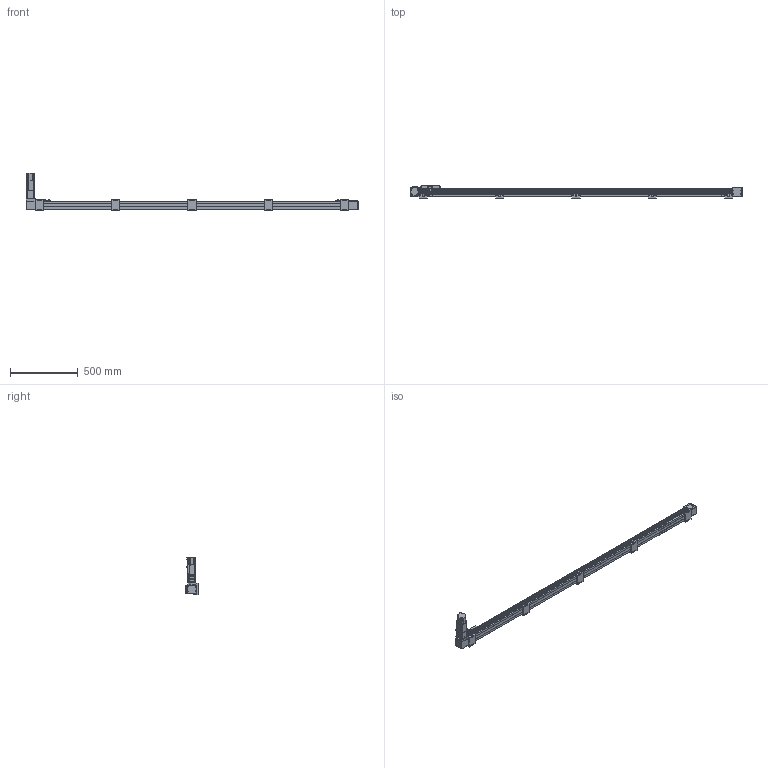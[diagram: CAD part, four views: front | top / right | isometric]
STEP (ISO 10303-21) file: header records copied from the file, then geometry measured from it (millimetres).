
FILE_DESCRIPTION(/* description */ ('STEP AP203'),/* implementation_level */ '2;1');
FILE_NAME(/* name */ 'SK60-P13-S2150-BL-T40-C1-N(0)',/* time_stamp */ '2023-04-06T03:37:45+02:00',/* author */ ('License CC BY-ND 4.0'),/* organization */ ('CADENAS'),/* preprocessor_version */ 'ST-DEVELOPER v19.3',/* originating_system */ 'PARTsolutions',/* authorisation */ ' ');
FILE_SCHEMA (('CONFIG_CONTROL_DESIGN'));
Length unit declared in the file: millimetre
Products named in the file (11): SK60-P13-S2150-BL-T40-C1-N(0); PSC140-sensor; SK60-S450_seat; SK60-S450-BL-C1_slider; SK60_body3; SK60_body6; SK60-BL_body2; T40-p1; SK60_body5; SK60_body4; SK60-S2150-BL-C1_body
Assembly tree (20 placements, depth 2):
  SK60-P13-S2150-BL-T40-C1-N(0)
    PSC140-sensor  x3
    SK60-S450_seat  x5
    SK60-S450-BL-C1_slider
    SK60_body3  x3
    SK60_body6  x2
    SK60-BL_body2  x2
    T40-p1
    SK60_body5
    SK60_body4
    SK60-S2150-BL-C1_body
Bounding box: 2450 x 90 x 278.2 mm (x, y, z)
Volume: 8945321.3 mm3; surface area: 1111131.9 mm2
Topology: 20 solids, 24 shells, 966 faces, 2403 edges, 1586 vertices
Faces by surface type: plane 616, cylinder 314, cone 34, torus 2
Full cylindrical faces by diameter (mm): 2.8 x3, 3.3 x4, 4.2 x8, 4.5 x26, 4.6 x3, 4.917 x28, 5 x2, 5.478 x4, 5.5 x31, 6.5 x10, 8 x4, 8.5 x4, 9.988 x4, 10 x20, 13.556 x1, 14 x1, 14.586 x1, 19.692 x1, 38.432 x2, 43 x1, 44 x3, 47 x2, 50 x2
Entity records: 19395 total; most frequent: DIRECTION 3298, CARTESIAN_POINT 3292, ORIENTED_EDGE 3050, EDGE_CURVE 1525, AXIS2_PLACEMENT_3D 1103, LINE 1092, VECTOR 1092, VERTEX_POINT 1077
